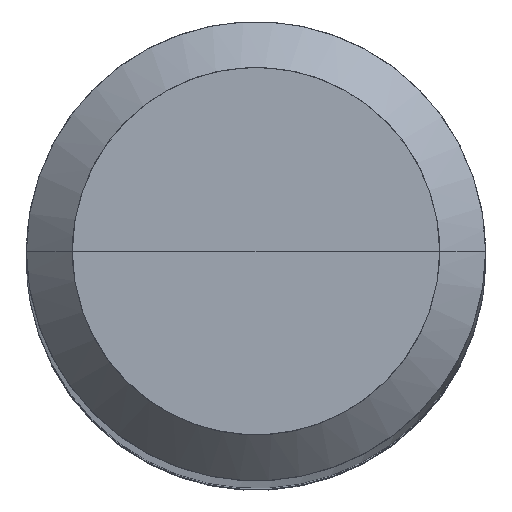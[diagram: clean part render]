
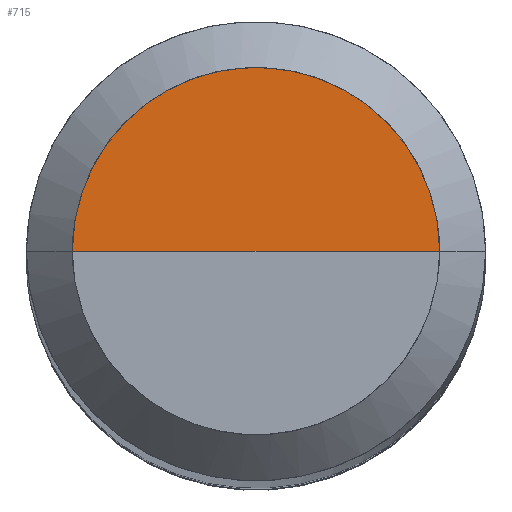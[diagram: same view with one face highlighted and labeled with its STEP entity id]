
A CAD part, top view. The second image highlights one B-rep face of the part: STEP entity #715.
In plain terms, the highlighted free-form (B-spline) face has degree [1, 2] with [2, 5] control points.
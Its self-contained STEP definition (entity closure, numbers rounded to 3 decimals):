
#470=CARTESIAN_POINT('',(6.4,0.0,146.268));
#471=CARTESIAN_POINT('',(6.4,6.4,146.268));
#472=CARTESIAN_POINT('',(0.0,6.4,146.268));
#473=CARTESIAN_POINT('',(-6.4,6.4,146.268));
#474=CARTESIAN_POINT('',(-6.4,0.0,146.268));
#475=CARTESIAN_POINT('',(0.0,0.0,146.268));
#700=(
BOUNDED_SURFACE()
B_SPLINE_SURFACE(1,2,(
(#470,#471,#472,#473,#474),
(#475,#475,#475,#475,#475)
), .UNSPECIFIED.,.F.,.F.,.F.)
B_SPLINE_SURFACE_WITH_KNOTS((2,2),(3,2,3),(
0.0,1.0),(
0.0,0.5,1.0), .UNSPECIFIED.)
GEOMETRIC_REPRESENTATION_ITEM()
RATIONAL_B_SPLINE_SURFACE(((1.0,0.707,1.0,0.707,1.0),
(1.0,0.707,1.0,0.707,1.0)
))
REPRESENTATION_ITEM('')
SURFACE()
);
#701=(
BOUNDED_CURVE()
B_SPLINE_CURVE(2,(#474,#473,#472,#471,#470),.UNSPECIFIED.,.F.,.F.)
B_SPLINE_CURVE_WITH_KNOTS((3,2,3),
(0.0,0.5,1.0),.UNSPECIFIED.)
CURVE()
GEOMETRIC_REPRESENTATION_ITEM()
RATIONAL_B_SPLINE_CURVE((1.0,0.707,1.0,0.707,1.0))
REPRESENTATION_ITEM('')
);
#702=(
BOUNDED_CURVE()
B_SPLINE_CURVE(1,(#470,#475),.UNSPECIFIED.,.F.,.F.)
B_SPLINE_CURVE_WITH_KNOTS((2,2),
(0.0,1.0),.UNSPECIFIED.)
CURVE()
GEOMETRIC_REPRESENTATION_ITEM()
RATIONAL_B_SPLINE_CURVE((1.0,1.0))
REPRESENTATION_ITEM('')
);
#703=(
BOUNDED_CURVE()
B_SPLINE_CURVE(1,(#475,#474),.UNSPECIFIED.,.F.,.F.)
B_SPLINE_CURVE_WITH_KNOTS((2,2),
(0.0,1.0),.UNSPECIFIED.)
CURVE()
GEOMETRIC_REPRESENTATION_ITEM()
RATIONAL_B_SPLINE_CURVE((1.0,1.0))
REPRESENTATION_ITEM('')
);
#704=VERTEX_POINT('',#470);
#705=VERTEX_POINT('',#474);
#706=VERTEX_POINT('',#475);
#707=EDGE_CURVE('',#705,#704,#701,.T.);
#708=EDGE_CURVE('',#704,#706,#702,.T.);
#709=EDGE_CURVE('',#706,#705,#703,.T.);
#710=ORIENTED_EDGE('',*,*,#707,.T.);
#711=ORIENTED_EDGE('',*,*,#708,.T.);
#712=ORIENTED_EDGE('',*,*,#709,.T.);
#713=EDGE_LOOP('',(#710,#711,#712));
#714=FACE_OUTER_BOUND('',#713,.T.);
#715=ADVANCED_FACE('',(#714),#700,.T.);
